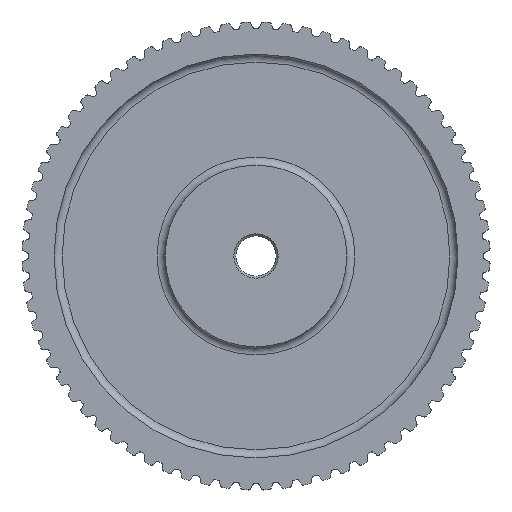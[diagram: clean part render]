
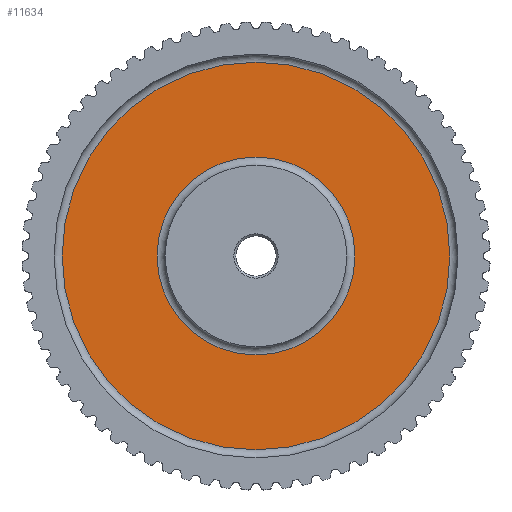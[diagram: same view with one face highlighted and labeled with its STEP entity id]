
A CAD part, left-side view. The second image highlights one B-rep face of the part: STEP entity #11634.
In plain terms, the highlighted planar face has unit normal (-1, 0, 0).
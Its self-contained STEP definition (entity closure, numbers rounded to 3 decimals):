
#27=FACE_BOUND('',#1442,.T.);
#249=PLANE('',#12994);
#842=FACE_OUTER_BOUND('',#1441,.T.);
#1441=EDGE_LOOP('',(#10670));
#1442=EDGE_LOOP('',(#10671));
#4218=CIRCLE('',#12993,24.5);
#4219=CIRCLE('',#12995,48.);
#5392=VERTEX_POINT('',#20215);
#5393=VERTEX_POINT('',#20219);
#7152=EDGE_CURVE('',#5392,#5392,#4218,.T.);
#7153=EDGE_CURVE('',#5393,#5393,#4219,.T.);
#10670=ORIENTED_EDGE('',*,*,#7153,.F.);
#10671=ORIENTED_EDGE('',*,*,#7152,.T.);
#11634=ADVANCED_FACE('',(#842,#27),#249,.T.);
#12993=AXIS2_PLACEMENT_3D('',#20217,#16684,#16685);
#12994=AXIS2_PLACEMENT_3D('',#20218,#16686,#16687);
#12995=AXIS2_PLACEMENT_3D('',#20220,#16688,#16689);
#16684=DIRECTION('center_axis',(1.,0.,0.));
#16685=DIRECTION('ref_axis',(0.,0.,-1.));
#16686=DIRECTION('center_axis',(-1.,0.,0.));
#16687=DIRECTION('ref_axis',(0.,0.,1.));
#16688=DIRECTION('center_axis',(1.,0.,0.));
#16689=DIRECTION('ref_axis',(0.,0.,-1.));
#20215=CARTESIAN_POINT('',(5.,0.,24.5));
#20217=CARTESIAN_POINT('Origin',(5.,0.,0.));
#20218=CARTESIAN_POINT('Origin',(5.,48.,0.));
#20219=CARTESIAN_POINT('',(5.,0.,48.));
#20220=CARTESIAN_POINT('Origin',(5.,0.,0.));
